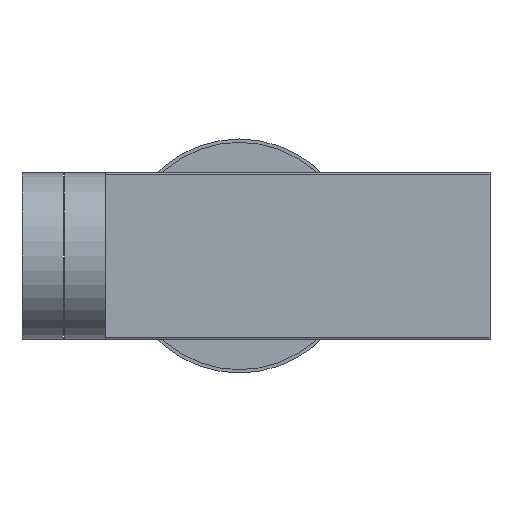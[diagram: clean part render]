
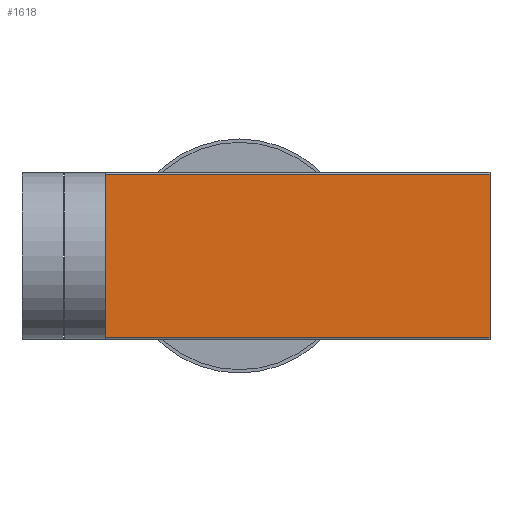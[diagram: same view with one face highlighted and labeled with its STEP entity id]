
A CAD part, left-side view. The second image highlights one B-rep face of the part: STEP entity #1618.
In plain terms, the highlighted planar face has unit normal (-1, 0, 0).
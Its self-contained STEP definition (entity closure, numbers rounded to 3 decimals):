
#15 = FACE_OUTER_BOUND ( 'NONE', #1000, .T. ) ;
#97 = DIRECTION ( 'NONE',  ( 0., -1., 0. ) ) ;
#145 = LINE ( 'NONE', #286, #784 ) ;
#216 = DIRECTION ( 'NONE',  ( 0., 0., 1. ) ) ;
#270 = CARTESIAN_POINT ( 'NONE',  ( -25., -115., -25. ) ) ;
#286 = CARTESIAN_POINT ( 'NONE',  ( -25., -115., -25. ) ) ;
#315 = ORIENTED_EDGE ( 'NONE', *, *, #449, .T. ) ;
#406 = CARTESIAN_POINT ( 'NONE',  ( -25., 0., -24.5 ) ) ;
#419 = CARTESIAN_POINT ( 'NONE',  ( -25., -115., -24.5 ) ) ;
#449 = EDGE_CURVE ( 'NONE', #846, #773, #1072, .T. ) ;
#523 = EDGE_CURVE ( 'NONE', #1139, #846, #145, .T. ) ;
#644 = PLANE ( 'NONE',  #956 ) ;
#664 = DIRECTION ( 'NONE',  ( 0., 0., 1. ) ) ;
#667 = DIRECTION ( 'NONE',  ( 0., 0., 1. ) ) ;
#697 = ORIENTED_EDGE ( 'NONE', *, *, #1243, .T. ) ;
#708 = CARTESIAN_POINT ( 'NONE',  ( -25., -115., -24.5 ) ) ;
#773 = VERTEX_POINT ( 'NONE', #1085 ) ;
#784 = VECTOR ( 'NONE', #667, 1000. ) ;
#846 = VERTEX_POINT ( 'NONE', #1607 ) ;
#892 = DIRECTION ( 'NONE',  ( 0., 1., 0. ) ) ;
#893 = DIRECTION ( 'NONE',  ( -1., 0., 0. ) ) ;
#902 = VECTOR ( 'NONE', #216, 1000. ) ;
#947 = ORIENTED_EDGE ( 'NONE', *, *, #1271, .F. ) ;
#956 = AXIS2_PLACEMENT_3D ( 'NONE', #270, #893, #664 ) ;
#1000 = EDGE_LOOP ( 'NONE', ( #1313, #315, #947, #697 ) ) ;
#1006 = LINE ( 'NONE', #1579, #902 ) ;
#1072 = LINE ( 'NONE', #1537, #1479 ) ;
#1085 = CARTESIAN_POINT ( 'NONE',  ( -25., 0., 24.5 ) ) ;
#1139 = VERTEX_POINT ( 'NONE', #419 ) ;
#1243 = EDGE_CURVE ( 'NONE', #1520, #1139, #1384, .T. ) ;
#1271 = EDGE_CURVE ( 'NONE', #1520, #773, #1006, .T. ) ;
#1313 = ORIENTED_EDGE ( 'NONE', *, *, #523, .T. ) ;
#1338 = VECTOR ( 'NONE', #97, 1000. ) ;
#1384 = LINE ( 'NONE', #708, #1338 ) ;
#1479 = VECTOR ( 'NONE', #892, 1000. ) ;
#1520 = VERTEX_POINT ( 'NONE', #406 ) ;
#1537 = CARTESIAN_POINT ( 'NONE',  ( -25., -115., 24.5 ) ) ;
#1579 = CARTESIAN_POINT ( 'NONE',  ( -25., 0., -25. ) ) ;
#1607 = CARTESIAN_POINT ( 'NONE',  ( -25., -115., 24.5 ) ) ;
#1618 = ADVANCED_FACE ( 'NONE', ( #15 ), #644, .T. ) ;
